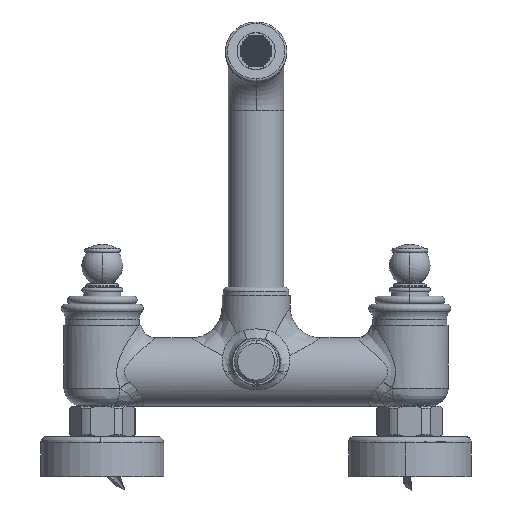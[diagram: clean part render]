
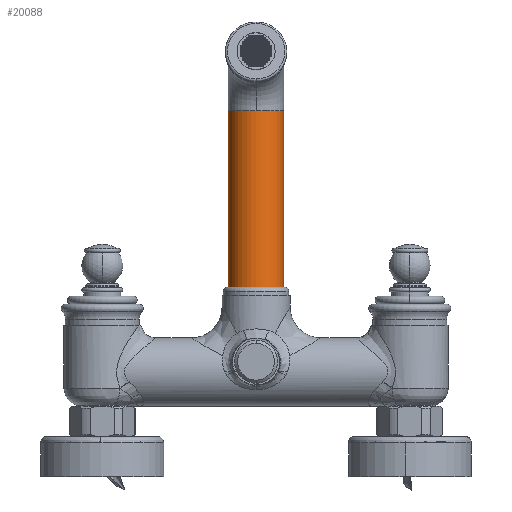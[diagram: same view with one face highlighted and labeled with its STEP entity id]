
A CAD part, front view. The second image highlights one B-rep face of the part: STEP entity #20088.
In plain terms, the highlighted cylindrical face has radius 13.5 mm (diameter 27 mm), a partial arc.
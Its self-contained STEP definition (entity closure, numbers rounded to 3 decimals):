
#1327 = CIRCLE ( 'NONE', #76843, 13.5 ) ;
#2433 = LINE ( 'NONE', #121328, #77087 ) ;
#9992 = DIRECTION ( 'NONE',  ( 0., 0., -1. ) ) ;
#10741 = CARTESIAN_POINT ( 'NONE',  ( -37.539, -8.461, 28.033 ) ) ;
#14959 = VERTEX_POINT ( 'NONE', #22431 ) ;
#15387 = FACE_OUTER_BOUND ( 'NONE', #26093, .T. ) ;
#20088 = ADVANCED_FACE ( 'NONE', ( #15387 ), #122128, .T. ) ;
#22431 = CARTESIAN_POINT ( 'NONE',  ( -37.539, -8.461, 115.033 ) ) ;
#23701 = LINE ( 'NONE', #70222, #55007 ) ;
#25976 = DIRECTION ( 'NONE',  ( 0., 0., -1. ) ) ;
#26093 = EDGE_LOOP ( 'NONE', ( #35774, #141492, #95384, #93886, #87185 ) ) ;
#27000 = AXIS2_PLACEMENT_3D ( 'NONE', #61157, #64167, #110678 ) ;
#35774 = ORIENTED_EDGE ( 'NONE', *, *, #88895, .F. ) ;
#45047 = VERTEX_POINT ( 'NONE', #90805 ) ;
#48159 = DIRECTION ( 'NONE',  ( 0., 0., 1. ) ) ;
#51710 = EDGE_CURVE ( 'NONE', #45047, #73076, #124446, .T. ) ;
#55007 = VECTOR ( 'NONE', #101743, 1000. ) ;
#56483 = DIRECTION ( 'NONE',  ( 0., -1., 0. ) ) ;
#59804 = CARTESIAN_POINT ( 'NONE',  ( -51.039, -21.961, 115.033 ) ) ;
#61157 = CARTESIAN_POINT ( 'NONE',  ( -51.039, -8.461, 28.033 ) ) ;
#62209 = AXIS2_PLACEMENT_3D ( 'NONE', #89302, #9992, #56483 ) ;
#64167 = DIRECTION ( 'NONE',  ( 0., 0., 1. ) ) ;
#67009 = EDGE_CURVE ( 'NONE', #93842, #82707, #1327, .T. ) ;
#70222 = CARTESIAN_POINT ( 'NONE',  ( -64.539, -8.461, 28.033 ) ) ;
#73076 = VERTEX_POINT ( 'NONE', #10741 ) ;
#74387 = CIRCLE ( 'NONE', #62209, 13.5 ) ;
#76843 = AXIS2_PLACEMENT_3D ( 'NONE', #130433, #25976, #141105 ) ;
#77087 = VECTOR ( 'NONE', #48159, 1000. ) ;
#78630 = DIRECTION ( 'NONE',  ( 0., 0., 1. ) ) ;
#82707 = VERTEX_POINT ( 'NONE', #90302 ) ;
#85889 = EDGE_CURVE ( 'NONE', #14959, #93842, #74387, .T. ) ;
#87185 = ORIENTED_EDGE ( 'NONE', *, *, #67009, .T. ) ;
#88895 = EDGE_CURVE ( 'NONE', #45047, #82707, #23701, .T. ) ;
#89302 = CARTESIAN_POINT ( 'NONE',  ( -51.039, -8.461, 115.033 ) ) ;
#90302 = CARTESIAN_POINT ( 'NONE',  ( -64.539, -8.461, 115.033 ) ) ;
#90743 = EDGE_CURVE ( 'NONE', #73076, #14959, #2433, .T. ) ;
#90805 = CARTESIAN_POINT ( 'NONE',  ( -64.539, -8.461, 28.033 ) ) ;
#90840 = DIRECTION ( 'NONE',  ( 1., 0., 0. ) ) ;
#93842 = VERTEX_POINT ( 'NONE', #59804 ) ;
#93886 = ORIENTED_EDGE ( 'NONE', *, *, #85889, .T. ) ;
#95384 = ORIENTED_EDGE ( 'NONE', *, *, #90743, .T. ) ;
#101743 = DIRECTION ( 'NONE',  ( 0., 0., 1. ) ) ;
#110678 = DIRECTION ( 'NONE',  ( 1., 0., 0. ) ) ;
#121328 = CARTESIAN_POINT ( 'NONE',  ( -37.539, -8.461, 28.033 ) ) ;
#122128 = CYLINDRICAL_SURFACE ( 'NONE', #27000, 13.5 ) ;
#123662 = CARTESIAN_POINT ( 'NONE',  ( -51.039, -8.461, 28.033 ) ) ;
#124446 = CIRCLE ( 'NONE', #126943, 13.5 ) ;
#126943 = AXIS2_PLACEMENT_3D ( 'NONE', #123662, #78630, #90840 ) ;
#130433 = CARTESIAN_POINT ( 'NONE',  ( -51.039, -8.461, 115.033 ) ) ;
#141105 = DIRECTION ( 'NONE',  ( 0., -1., 0. ) ) ;
#141492 = ORIENTED_EDGE ( 'NONE', *, *, #51710, .T. ) ;
